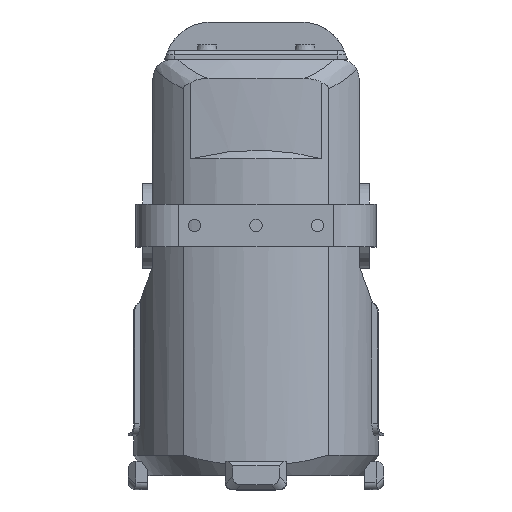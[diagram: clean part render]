
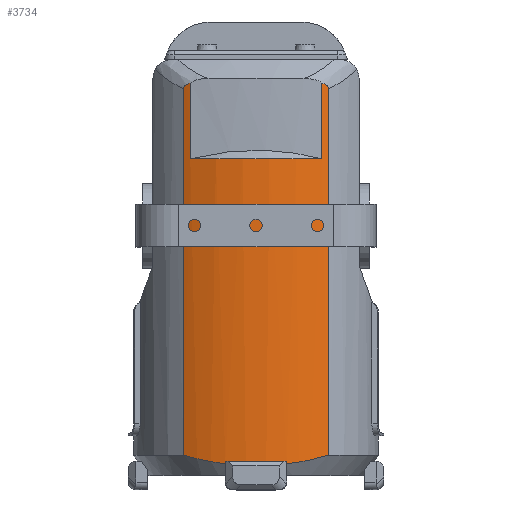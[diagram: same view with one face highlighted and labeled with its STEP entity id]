
A CAD part, top view. The second image highlights one B-rep face of the part: STEP entity #3734.
In plain terms, the highlighted cylindrical face has radius 180 mm (diameter 360 mm), a partial arc.
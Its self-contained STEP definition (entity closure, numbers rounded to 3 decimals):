
#247=CIRCLE('',#4030,180.);
#248=CIRCLE('',#4031,180.);
#345=LINE('',#5611,#666);
#357=LINE('',#5654,#678);
#387=LINE('',#5827,#708);
#388=LINE('',#5838,#709);
#389=LINE('',#5842,#710);
#390=LINE('',#5851,#711);
#666=VECTOR('',#4400,1000.);
#678=VECTOR('',#4426,1000.);
#708=VECTOR('',#4512,1000.);
#709=VECTOR('',#4513,1000.);
#710=VECTOR('',#4516,1000.);
#711=VECTOR('',#4517,1000.);
#1133=ORIENTED_EDGE('',*,*,#2249,.F.);
#1134=ORIENTED_EDGE('',*,*,#2121,.F.);
#1135=ORIENTED_EDGE('',*,*,#2171,.T.);
#1136=ORIENTED_EDGE('',*,*,#2250,.T.);
#1137=ORIENTED_EDGE('',*,*,#2251,.T.);
#1138=ORIENTED_EDGE('',*,*,#2252,.T.);
#1139=ORIENTED_EDGE('',*,*,#2253,.T.);
#1140=ORIENTED_EDGE('',*,*,#2254,.T.);
#1141=ORIENTED_EDGE('',*,*,#2188,.F.);
#1142=ORIENTED_EDGE('',*,*,#2127,.F.);
#1143=ORIENTED_EDGE('',*,*,#2255,.F.);
#1144=ORIENTED_EDGE('',*,*,#2256,.F.);
#2121=EDGE_CURVE('',#2686,#2687,#3056,.T.);
#2127=EDGE_CURVE('',#2691,#2692,#3061,.T.);
#2171=EDGE_CURVE('',#2686,#2729,#345,.T.);
#2188=EDGE_CURVE('',#2692,#2743,#357,.T.);
#2249=EDGE_CURVE('',#2687,#2796,#387,.T.);
#2250=EDGE_CURVE('',#2729,#2797,#3089,.T.);
#2251=EDGE_CURVE('',#2797,#2798,#388,.F.);
#2252=EDGE_CURVE('',#2798,#2799,#247,.F.);
#2253=EDGE_CURVE('',#2799,#2800,#389,.T.);
#2254=EDGE_CURVE('',#2800,#2743,#3090,.T.);
#2255=EDGE_CURVE('',#2801,#2691,#390,.F.);
#2256=EDGE_CURVE('',#2796,#2801,#248,.F.);
#2686=VERTEX_POINT('',#5424);
#2687=VERTEX_POINT('',#5429);
#2691=VERTEX_POINT('',#5455);
#2692=VERTEX_POINT('',#5460);
#2729=VERTEX_POINT('',#5610);
#2743=VERTEX_POINT('',#5655);
#2796=VERTEX_POINT('',#5828);
#2797=VERTEX_POINT('',#5837);
#2798=VERTEX_POINT('',#5839);
#2799=VERTEX_POINT('',#5841);
#2800=VERTEX_POINT('',#5843);
#2801=VERTEX_POINT('',#5852);
#3056=B_SPLINE_CURVE_WITH_KNOTS('',3,(#5425,#5426,#5427,#5428),
 .UNSPECIFIED.,.F.,.F.,(4,4),(0.,0.047),
 .UNSPECIFIED.);
#3061=B_SPLINE_CURVE_WITH_KNOTS('',3,(#5456,#5457,#5458,#5459),
 .UNSPECIFIED.,.F.,.F.,(4,4),(0.112,0.16),
 .UNSPECIFIED.);
#3089=B_SPLINE_CURVE_WITH_KNOTS('',3,(#5829,#5830,#5831,#5832,#5833,#5834,
#5835,#5836),.UNSPECIFIED.,.F.,.F.,(4,1,1,1,1,4),(0.,0.001,
0.003,0.005,0.008,0.011),
 .UNSPECIFIED.);
#3090=B_SPLINE_CURVE_WITH_KNOTS('',3,(#5844,#5845,#5846,#5847,#5848,#5849,
#5850),.UNSPECIFIED.,.F.,.F.,(4,1,1,1,4),(0.,0.003,0.005,
0.008,0.011),.UNSPECIFIED.);
#3165=EDGE_LOOP('',(#1133,#1134,#1135,#1136,#1137,#1138,#1139,#1140,#1141,
#1142,#1143,#1144));
#3418=FACE_BOUND('',#3165,.T.);
#3653=CYLINDRICAL_SURFACE('',#4029,180.);
#3734=ADVANCED_FACE('',(#3418),#3653,.T.);
#4029=AXIS2_PLACEMENT_3D('',#5826,#4510,#4511);
#4030=AXIS2_PLACEMENT_3D('',#5840,#4514,#4515);
#4031=AXIS2_PLACEMENT_3D('',#5853,#4518,#4519);
#4400=DIRECTION('',(0.,1.,0.));
#4426=DIRECTION('',(0.,1.,0.));
#4510=DIRECTION('',(0.,1.,0.));
#4511=DIRECTION('',(0.,0.,1.));
#4512=DIRECTION('',(0.,1.,0.));
#4513=DIRECTION('',(0.,1.,0.));
#4514=DIRECTION('',(0.,1.,0.));
#4515=DIRECTION('',(0.,0.,1.));
#4516=DIRECTION('',(0.,1.,0.));
#4517=DIRECTION('',(0.,1.,0.));
#4518=DIRECTION('',(0.,1.,0.));
#4519=DIRECTION('',(0.,0.,1.));
#5424=CARTESIAN_POINT('',(76.649,-328.578,105.));
#5425=CARTESIAN_POINT('',(76.649,-328.578,105.));
#5426=CARTESIAN_POINT('',(62.693,-332.753,111.568));
#5427=CARTESIAN_POINT('',(48.003,-335.916,116.331));
#5428=CARTESIAN_POINT('',(32.5,-337.82,119.177));
#5429=CARTESIAN_POINT('',(32.5,-337.82,119.177));
#5455=CARTESIAN_POINT('',(-32.5,-337.82,119.177));
#5456=CARTESIAN_POINT('',(-32.5,-337.82,119.177));
#5457=CARTESIAN_POINT('',(-48.039,-335.911,116.324));
#5458=CARTESIAN_POINT('',(-62.724,-332.744,111.553));
#5459=CARTESIAN_POINT('',(-76.649,-328.578,105.));
#5460=CARTESIAN_POINT('',(-76.649,-328.578,105.));
#5610=CARTESIAN_POINT('',(76.649,58.823,105.));
#5611=CARTESIAN_POINT('',(76.649,-350.,105.));
#5654=CARTESIAN_POINT('',(-76.649,-350.,105.));
#5655=CARTESIAN_POINT('',(-76.649,58.823,105.));
#5826=CARTESIAN_POINT('',(0.,-350.,-57.865));
#5827=CARTESIAN_POINT('',(32.5,-350.,119.177));
#5828=CARTESIAN_POINT('',(32.5,-334.946,119.177));
#5829=CARTESIAN_POINT('',(76.649,58.823,105.));
#5830=CARTESIAN_POINT('',(76.649,59.281,105.));
#5831=CARTESIAN_POINT('',(76.55,60.176,105.047));
#5832=CARTESIAN_POINT('',(75.864,61.866,105.368));
#5833=CARTESIAN_POINT('',(74.26,63.371,106.109));
#5834=CARTESIAN_POINT('',(71.939,64.387,107.141));
#5835=CARTESIAN_POINT('',(70.324,64.772,107.832));
#5836=CARTESIAN_POINT('',(69.499,64.921,108.177));
#5837=CARTESIAN_POINT('',(69.499,64.921,108.177));
#5838=CARTESIAN_POINT('',(69.499,42.5,108.177));
#5839=CARTESIAN_POINT('',(69.499,-15.,108.177));
#5840=CARTESIAN_POINT('',(0.,-15.,-57.865));
#5841=CARTESIAN_POINT('',(-69.499,-15.,108.177));
#5842=CARTESIAN_POINT('',(-69.499,42.5,108.177));
#5843=CARTESIAN_POINT('',(-69.499,64.921,108.177));
#5844=CARTESIAN_POINT('',(-69.499,64.921,108.177));
#5845=CARTESIAN_POINT('',(-70.324,64.772,107.832));
#5846=CARTESIAN_POINT('',(-71.954,64.381,107.135));
#5847=CARTESIAN_POINT('',(-74.254,63.375,106.111));
#5848=CARTESIAN_POINT('',(-76.199,61.549,105.213));
#5849=CARTESIAN_POINT('',(-76.649,59.737,105.));
#5850=CARTESIAN_POINT('',(-76.649,58.823,105.));
#5851=CARTESIAN_POINT('',(-32.5,-350.,119.177));
#5852=CARTESIAN_POINT('',(-32.5,-334.946,119.177));
#5853=CARTESIAN_POINT('',(0.,-334.946,-57.865));
